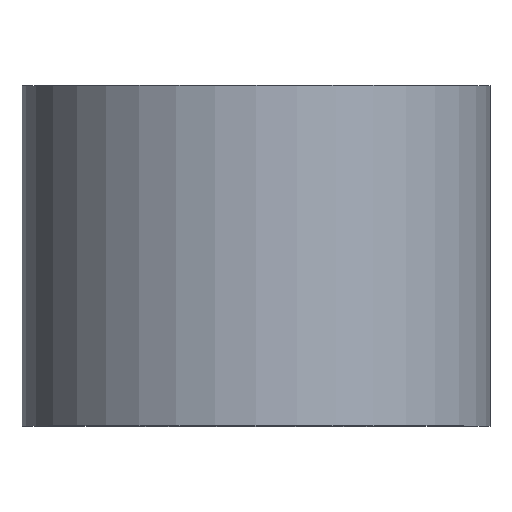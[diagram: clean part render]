
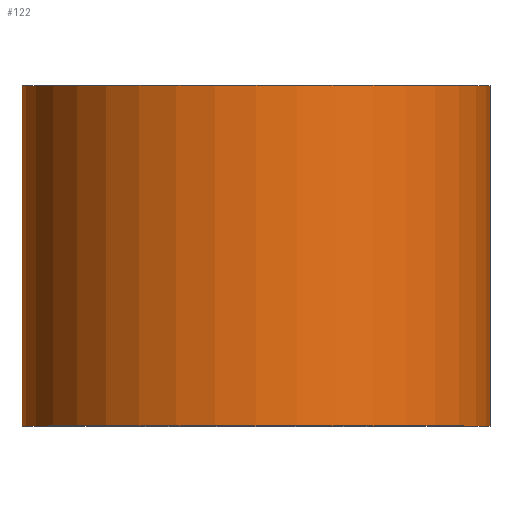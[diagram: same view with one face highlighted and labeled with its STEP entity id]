
A CAD part, top view. The second image highlights one B-rep face of the part: STEP entity #122.
In plain terms, the highlighted cylindrical face has radius 11 mm (diameter 22 mm), a partial arc.
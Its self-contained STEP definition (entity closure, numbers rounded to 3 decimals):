
#1 = VECTOR ( 'NONE', #159, 1000. ) ;
#6 = ORIENTED_EDGE ( 'NONE', *, *, #109, .F. ) ;
#18 = CARTESIAN_POINT ( 'NONE',  ( -11., 0., 0. ) ) ;
#20 = DIRECTION ( 'NONE',  ( -1., 0., 0. ) ) ;
#22 = CARTESIAN_POINT ( 'NONE',  ( 0., 0., 0. ) ) ;
#37 = ORIENTED_EDGE ( 'NONE', *, *, #145, .F. ) ;
#64 = CIRCLE ( 'NONE', #138, 11. ) ;
#76 = LINE ( 'NONE', #18, #1 ) ;
#78 = EDGE_LOOP ( 'NONE', ( #209, #283, #37, #6 ) ) ;
#80 = DIRECTION ( 'NONE',  ( 0., 1., 0. ) ) ;
#86 = FACE_OUTER_BOUND ( 'NONE', #78, .T. ) ;
#91 = DIRECTION ( 'NONE',  ( 0., 1., 0. ) ) ;
#100 = AXIS2_PLACEMENT_3D ( 'NONE', #177, #268, #137 ) ;
#109 = EDGE_CURVE ( 'NONE', #187, #199, #76, .T. ) ;
#115 = DIRECTION ( 'NONE',  ( 0., 1., 0. ) ) ;
#122 = ADVANCED_FACE ( 'NONE', ( #86 ), #293, .T. ) ;
#130 = VERTEX_POINT ( 'NONE', #203 ) ;
#137 = DIRECTION ( 'NONE',  ( -1., 0., 0. ) ) ;
#138 = AXIS2_PLACEMENT_3D ( 'NONE', #22, #115, #20 ) ;
#145 = EDGE_CURVE ( 'NONE', #199, #211, #273, .T. ) ;
#159 = DIRECTION ( 'NONE',  ( 0., 1., 0. ) ) ;
#160 = CARTESIAN_POINT ( 'NONE',  ( -11., 0., 0. ) ) ;
#162 = DIRECTION ( 'NONE',  ( -1., 0., 0. ) ) ;
#164 = EDGE_CURVE ( 'NONE', #130, #211, #230, .T. ) ;
#177 = CARTESIAN_POINT ( 'NONE',  ( 0., 16., 0. ) ) ;
#180 = CARTESIAN_POINT ( 'NONE',  ( 0., 0., 0. ) ) ;
#184 = CARTESIAN_POINT ( 'NONE',  ( 11., 16., 0. ) ) ;
#187 = VERTEX_POINT ( 'NONE', #160 ) ;
#199 = VERTEX_POINT ( 'NONE', #232 ) ;
#203 = CARTESIAN_POINT ( 'NONE',  ( 11., 0., 0. ) ) ;
#209 = ORIENTED_EDGE ( 'NONE', *, *, #271, .T. ) ;
#211 = VERTEX_POINT ( 'NONE', #184 ) ;
#227 = VECTOR ( 'NONE', #91, 1000. ) ;
#230 = LINE ( 'NONE', #267, #227 ) ;
#232 = CARTESIAN_POINT ( 'NONE',  ( -11., 16., 0. ) ) ;
#254 = AXIS2_PLACEMENT_3D ( 'NONE', #180, #80, #162 ) ;
#267 = CARTESIAN_POINT ( 'NONE',  ( 11., 0., 0. ) ) ;
#268 = DIRECTION ( 'NONE',  ( 0., 1., 0. ) ) ;
#271 = EDGE_CURVE ( 'NONE', #187, #130, #64, .T. ) ;
#273 = CIRCLE ( 'NONE', #100, 11. ) ;
#283 = ORIENTED_EDGE ( 'NONE', *, *, #164, .T. ) ;
#293 = CYLINDRICAL_SURFACE ( 'NONE', #254, 11. ) ;
